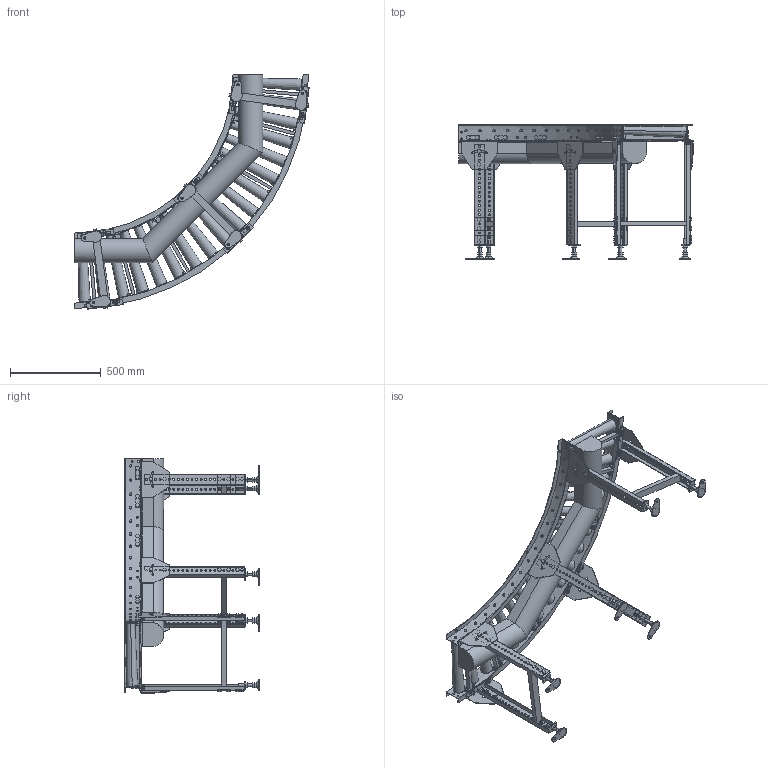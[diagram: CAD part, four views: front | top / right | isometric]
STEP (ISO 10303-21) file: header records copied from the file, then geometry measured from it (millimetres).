
FILE_DESCRIPTION (( 'STEP AP214' ), '1' );
FILE_NAME ('MCD50C9-90-355-100.STEP', '2022-08-01T07:47:54', ( '' ), ( '' ), 'SwSTEP 2.0', 'SolidWorks 2017', '' );
FILE_SCHEMA (( 'AUTOMOTIVE_DESIGN' ));
Length unit declared in the file: millimetre
Products named in the file (1): MCD50C9-90-355-100
Bounding box: 1288.42 x 740 x 1288.42 mm (x, y, z)
Volume: 42860641.4 mm3; surface area: 4523534 mm2
Topology: 28 solids, 58 shells, 3802 faces, 9068 edges, 5712 vertices
Faces by surface type: plane 2727, cylinder 1027, cone 48
Entity records: 161179 total; most frequent: CARTESIAN_POINT 28751, DIRECTION 19170, ORIENTED_EDGE 18136, EDGE_CURVE 9068, AXIS2_PLACEMENT_3D 6653, VECTOR 5864, LINE 5864, VERTEX_POINT 5712
